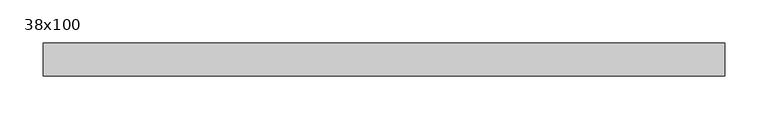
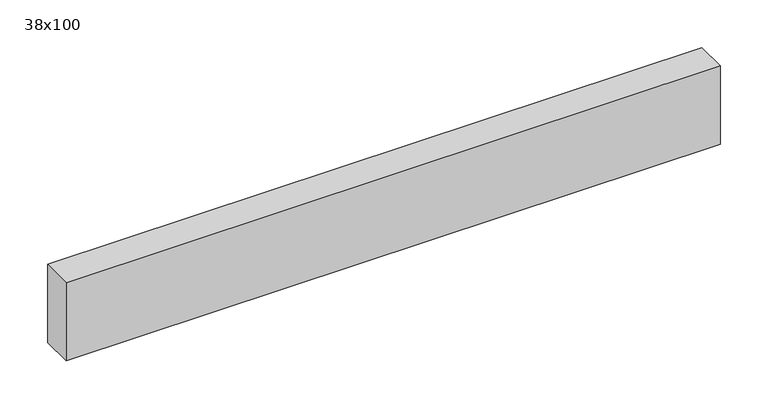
"""IFC4 building model written with IfcOpenShell, lengths in millimetres: beam geometry, Poutre - Bois de construction de dimensions courantes : 38x100."""

import ifcopenshell
import ifcopenshell.guid

model = None  # the IFC model being written
_history = None  # IfcOwnerHistory: only IFC2X3 demands one
_inside = {}  # id of a spatial element -> (the spatial element, [elements in it])
_under = {}  # id of a project, library or spatial element -> (it, [spatial elements below it])
_declared = {}  # id of a project -> (the project, [libraries it declares])
_typed = {}  # id of a type object -> (the type object, [elements of that type])
_made_of = {}  # id of a material, layer set ... -> (it, [elements and type objects made of it])


def new_model(schema):
    """Start an empty IFC model of exactly this schema.

    Asked for "IFC4X3", IfcOpenShell would pick the latest addendum, in which some entities
    have other attributes; the version numbers below select the first issue.
    IFC2X3 requires an IfcOwnerHistory on every rooted entity: one is made here for all.
    """
    global model, _history
    if schema == "IFC4X3":
        model = ifcopenshell.file(schema_version=(4, 3, 0, 0))
    else:
        model = ifcopenshell.file(schema=schema)
    _inside.clear()
    _under.clear()
    _declared.clear()
    _typed.clear()
    _made_of.clear()
    _history = None
    if model.schema == "IFC2X3":
        org = make("IfcOrganization", Name="unknown")
        user = make(
            "IfcPersonAndOrganization",
            ThePerson=make("IfcPerson", FamilyName="unknown"),
            TheOrganization=org,
        )
        app = make(
            "IfcApplication",
            ApplicationDeveloper=org,
            Version="unknown",
            ApplicationFullName="unknown",
            ApplicationIdentifier="unknown",
        )
        _history = make(
            "IfcOwnerHistory",
            OwningUser=user,
            OwningApplication=app,
            ChangeAction="ADDED",
            CreationDate=0,
        )
    return model


def make(cls, **values):
    """One entity of the class cls with the attributes given. An attribute that is None is left unset."""
    return model.create_entity(
        cls, **{name: value for name, value in values.items() if value is not None}
    )


def rooted(cls, **values):
    """An entity with a GlobalId (a new one), such as an element, a storey or a relation."""
    return make(cls, GlobalId=ifcopenshell.guid.new(), OwnerHistory=_history, **values)


def si_unit(unit_type, name, prefix=None):
    """IfcSIUnit, for example si_unit("LENGTHUNIT", "METRE", prefix="MILLI")."""
    return make("IfcSIUnit", UnitType=unit_type, Prefix=prefix, Name=name)


def assignment(units):
    """IfcUnitAssignment: the units of a project."""
    return None if units is None else make("IfcUnitAssignment", Units=units)


def point(xyz):
    """IfcCartesianPoint."""
    return None if xyz is None else make("IfcCartesianPoint", Coordinates=xyz)


def direction(xyz):
    """IfcDirection."""
    return None if xyz is None else make("IfcDirection", DirectionRatios=xyz)


def frame(location, z_axis=None, x_axis=None):
    """IfcAxis2Placement3D, a coordinate frame: its origin and axes. An axis left out is left unset."""
    return make(
        "IfcAxis2Placement3D",
        Location=point(location),
        Axis=direction(z_axis),
        RefDirection=direction(x_axis),
    )


def origin():
    """The frame at (0, 0, 0) with its axes left unset."""
    return frame((0.0, 0.0, 0.0))


def place(relative_to, where):
    """IfcLocalPlacement: puts the frame where relative to a parent placement (None: the world)."""
    return make(
        "IfcLocalPlacement", PlacementRelTo=relative_to, RelativePlacement=where
    )


def context(
    kind, dimensions, precision=None, world=None, true_north=None, identifier=None
):
    """IfcGeometricRepresentationContext, for example the 3D "Model" context."""
    return make(
        "IfcGeometricRepresentationContext",
        ContextIdentifier=identifier,
        ContextType=kind,
        CoordinateSpaceDimension=dimensions,
        Precision=precision,
        WorldCoordinateSystem=world,
        TrueNorth=true_north,
    )


def project(units=None, contexts=None):
    """IfcProject with its units and contexts."""
    return rooted(
        "IfcProject",
        Name="project",
        RepresentationContexts=contexts,
        UnitsInContext=assignment(units),
    )


def spatial(cls, under=None, at=None, **own):
    """A site, building, storey or space (cls), placed at a placement, below another one or the project."""
    s = rooted(cls, ObjectPlacement=at, **own)
    if under is not None:
        _under.setdefault(under.id(), (under, []))[1].append(s)
    return s


def polyline(points):
    """IfcPolyline through the points."""
    return make("IfcPolyline", Points=[point(p) for p in points])


def outline(outer, holes=None, kind="AREA"):
    """IfcArbitraryClosedProfileDef: a profile drawn as a closed curve; with holes, ...WithVoids."""
    if holes is None:
        return make("IfcArbitraryClosedProfileDef", ProfileType=kind, OuterCurve=outer)
    return make(
        "IfcArbitraryProfileDefWithVoids",
        ProfileType=kind,
        OuterCurve=outer,
        InnerCurves=holes,
    )


def extrude(swept, where, along, depth):
    """IfcExtrudedAreaSolid: the profile swept, set in the frame where, extruded along a direction by depth."""
    return make(
        "IfcExtrudedAreaSolid",
        SweptArea=swept,
        Position=where,
        ExtrudedDirection=direction(along),
        Depth=depth,
    )


def shape(context_of_items, identifier, shape_type, items):
    """IfcShapeRepresentation: the items that make up one representation, for example the "Body"."""
    return make(
        "IfcShapeRepresentation",
        ContextOfItems=context_of_items,
        RepresentationIdentifier=identifier,
        RepresentationType=shape_type,
        Items=items,
    )


def source(mapping_origin, context_of_items, identifier, shape_type, items):
    """IfcRepresentationMap: a shape defined once, which mapped items show again and again."""
    return make(
        "IfcRepresentationMap",
        MappingOrigin=mapping_origin,
        MappedRepresentation=shape(context_of_items, identifier, shape_type, items),
    )


def transform(
    local_origin,
    x_axis=None,
    y_axis=None,
    z_axis=None,
    scale=None,
    scale2=None,
    scale3=None,
    uniform=True,
):
    """IfcCartesianTransformationOperator3D, or its non-uniform kind. x_axis, y_axis, z_axis: its Axis1, 2, 3."""
    if uniform:
        return make(
            "IfcCartesianTransformationOperator3D",
            Axis1=direction(x_axis),
            Axis2=direction(y_axis),
            LocalOrigin=point(local_origin),
            Scale=scale,
            Axis3=direction(z_axis),
        )
    return make(
        "IfcCartesianTransformationOperator3DnonUniform",
        Axis1=direction(x_axis),
        Axis2=direction(y_axis),
        LocalOrigin=point(local_origin),
        Scale=scale,
        Axis3=direction(z_axis),
        Scale2=scale2,
        Scale3=scale3,
    )


def mapped(mapping_source, mapping_target):
    """IfcMappedItem: shows the shape of a source again, moved by a transform."""
    return make(
        "IfcMappedItem", MappingSource=mapping_source, MappingTarget=mapping_target
    )


def made_of(thing, what):
    """Note that an element or type object is made of a material, layer set ...; save() writes the relation."""
    if what is not None:
        _made_of.setdefault(what.id(), (what, []))[1].append(thing)
    return thing


def element(
    cls,
    number,
    at=None,
    inside=None,
    cuts=None,
    type_object=None,
    material=None,
    context=None,
    identifier="Body",
    shape_type=None,
    held_by="IfcProductDefinitionShape",
    body=None,
    shapes=None,
    **own,
):
    """One element of the class cls, such as IfcWall. Its Tag is "e" and its number.

    at: its placement. inside: the storey or other place that contains it. cuts: it is an
    opening in that element (IfcRelVoidsElement). A single representation is given by context,
    identifier, shape_type and body (its items); several are given by shapes. held_by: the class
    of the entity that holds the representations. save() writes the other relations.
    """
    e = rooted(cls, Tag="e%d" % number, ObjectPlacement=at, **own)
    if body is not None:
        shapes = [shape(context, identifier, shape_type, body)]
    if shapes is not None:
        e.Representation = make(held_by, Representations=shapes)
    if inside is not None:
        _inside.setdefault(inside.id(), (inside, []))[1].append(e)
    if cuts is not None:
        rooted(
            "IfcRelVoidsElement", RelatingBuildingElement=cuts, RelatedOpeningElement=e
        )
    if type_object is not None:
        _typed.setdefault(type_object.id(), (type_object, []))[1].append(e)
    return made_of(e, material)


def aggregate(whole, parts):
    """IfcRelAggregates: a whole, such as a stair, and the parts it consists of."""
    return rooted("IfcRelAggregates", RelatingObject=whole, RelatedObjects=parts)


def save(model, path):
    """Write the relations noted so far, then the file.

    IfcRelAggregates (storeys below a building ...), IfcRelContainedInSpatialStructure (elements
    in a storey), IfcRelDefinesByType, IfcRelAssociatesMaterial and IfcRelDeclares: one each for
    every whole, place, type object, material and project.
    """
    for whole, parts in _under.values():
        aggregate(whole, parts)
    for where, things in _inside.values():
        rooted(
            "IfcRelContainedInSpatialStructure",
            RelatedElements=things,
            RelatingStructure=where,
        )
    for kind, things in _typed.values():
        rooted("IfcRelDefinesByType", RelatedObjects=things, RelatingType=kind)
    for what, things in _made_of.values():
        rooted("IfcRelAssociatesMaterial", RelatedObjects=things, RelatingMaterial=what)
    for by, libraries in _declared.values():
        rooted("IfcRelDeclares", RelatingContext=by, RelatedDefinitions=libraries)
    model.write(path)


def beam_38x100_78b63ada(model_context):
    return source(origin(), model_context, "Body", "SweptSolid", [
        extrude(outline(polyline([(345.0, 19.05), (345.0, -19.05), (-444.0, -19.05), (-444.0, 19.05), (345.0, 19.05)])), frame((0.0, 0.0, -50.0), z_axis=(0.0, 0.0, 1.0), x_axis=(1.0, 0.0, 0.0)), (0.0, 0.0, 1.0), 100.0),
    ])


if __name__ == "__main__":
    model = new_model("IFC4")
    model_context = context("Model", 3, world=origin())
    ifc_project = project(units=[si_unit("LENGTHUNIT", "METRE", prefix="MILLI")], contexts=[model_context])
    site = spatial("IfcSite", under=ifc_project)
    building = spatial("IfcBuilding", under=site)
    placement = place(None, origin())
    beam_38x100_shape = beam_38x100_78b63ada(model_context)
    element("IfcBeam", 1, ObjectType="Poutre - Bois de construction de dimensions courantes : 38x100", at=placement, inside=building, context=model_context, shape_type="MappedRepresentation", body=[
        mapped(beam_38x100_shape, transform((0.0, 0.0, 0.0), x_axis=(1.0, 0.0, 0.0), y_axis=(0.0, 1.0, 0.0), z_axis=(0.0, 0.0, 1.0))),
    ])
    save(model, "model.ifc")
